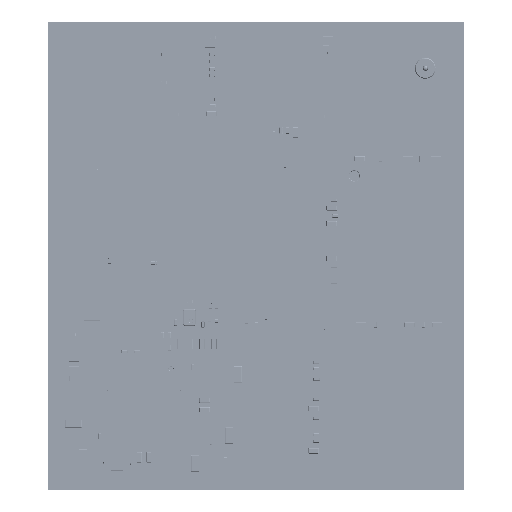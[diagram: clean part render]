
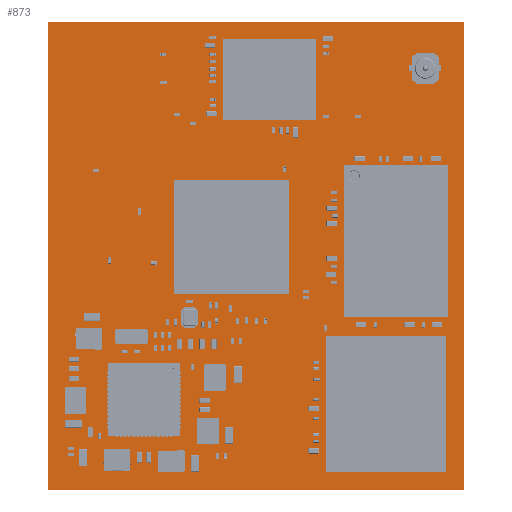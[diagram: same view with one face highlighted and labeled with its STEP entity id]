
A CAD part, top view. The second image highlights one B-rep face of the part: STEP entity #873.
In plain terms, the highlighted planar face has unit normal (0, 0, 1).
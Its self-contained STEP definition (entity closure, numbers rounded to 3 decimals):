
#744 = VERTEX_POINT('',#745);
#745 = CARTESIAN_POINT('',(0.,0.,1.547));
#751 = EDGE_CURVE('',#744,#752,#754,.T.);
#752 = VERTEX_POINT('',#753);
#753 = CARTESIAN_POINT('',(40.,0.,1.547));
#754 = LINE('',#755,#756);
#755 = CARTESIAN_POINT('',(0.,0.,1.547));
#756 = VECTOR('',#757,1.);
#757 = DIRECTION('',(1.,0.,0.));
#782 = EDGE_CURVE('',#752,#783,#785,.T.);
#783 = VERTEX_POINT('',#784);
#784 = CARTESIAN_POINT('',(40.,45.,1.547));
#785 = LINE('',#786,#787);
#786 = CARTESIAN_POINT('',(40.,0.,1.547));
#787 = VECTOR('',#788,1.);
#788 = DIRECTION('',(0.,1.,0.));
#813 = EDGE_CURVE('',#783,#814,#816,.T.);
#814 = VERTEX_POINT('',#815);
#815 = CARTESIAN_POINT('',(0.,45.,1.547));
#816 = LINE('',#817,#818);
#817 = CARTESIAN_POINT('',(40.,45.,1.547));
#818 = VECTOR('',#819,1.);
#819 = DIRECTION('',(-1.,0.,0.));
#844 = EDGE_CURVE('',#814,#744,#845,.T.);
#845 = LINE('',#846,#847);
#846 = CARTESIAN_POINT('',(0.,45.,1.547));
#847 = VECTOR('',#848,1.);
#848 = DIRECTION('',(0.,-1.,0.));
#873 = ADVANCED_FACE('',(#874),#880,.F.);
#874 = FACE_BOUND('',#875,.T.);
#875 = EDGE_LOOP('',(#876,#877,#878,#879));
#876 = ORIENTED_EDGE('',*,*,#751,.T.);
#877 = ORIENTED_EDGE('',*,*,#782,.T.);
#878 = ORIENTED_EDGE('',*,*,#813,.T.);
#879 = ORIENTED_EDGE('',*,*,#844,.T.);
#880 = PLANE('',#881);
#881 = AXIS2_PLACEMENT_3D('',#882,#883,#884);
#882 = CARTESIAN_POINT('',(0.,0.,1.547));
#883 = DIRECTION('',(0.,0.,-1.));
#884 = DIRECTION('',(-1.,0.,0.));
